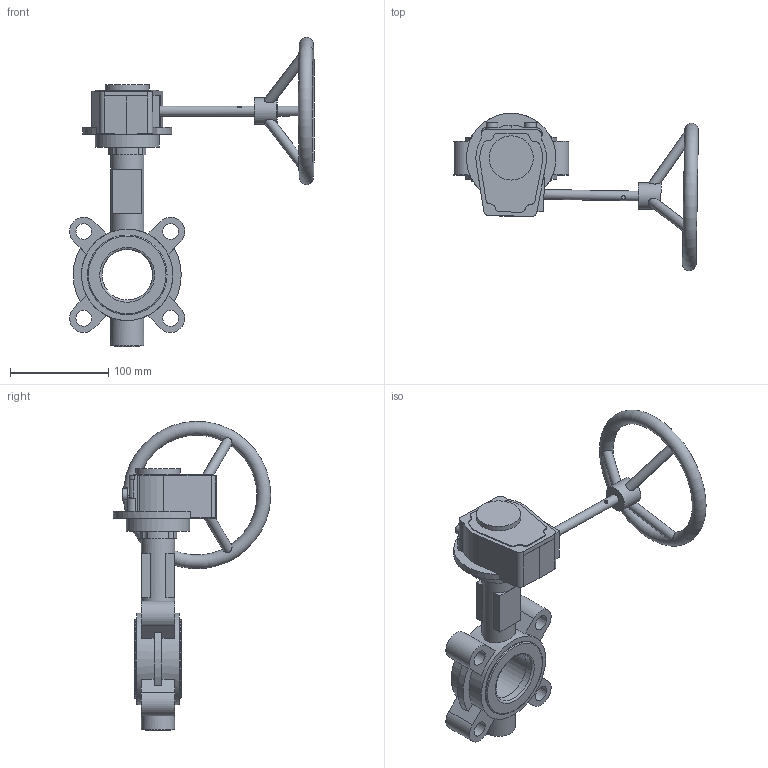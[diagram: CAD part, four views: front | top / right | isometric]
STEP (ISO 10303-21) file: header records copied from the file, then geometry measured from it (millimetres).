
FILE_DESCRIPTION (( 'STEP AP214' ), '1' );
FILE_NAME ('2502 LT型中线衬胶带销 手动头蝶阀 DN50 PN25 CD0309054.STEP', '2026-03-24T02:07:50', ( '' ), ( '' ), 'SwSTEP 2.0', 'SolidWorks 2018', '' );
FILE_SCHEMA (( 'AUTOMOTIVE_DESIGN' ));
Length unit declared in the file: millimetre
Products named in the file (5): 2026.3.6 GALA-D50-01LC25-00; DIN908 塞堵M20×1.5; GALA-D50-04AZC-00 概极傍蝶; 2502 LT型中线衬胶带销 手动头蝶阀 DN50 PN25 CD0309054; G12L忒雄芛 潠趙
Assembly tree (4 placements, depth 2):
  2502 LT型中线衬胶带销 手动头蝶阀 DN50 PN25 CD0309054
    2026.3.6 GALA-D50-01LC25-00
    GALA-D50-04AZC-00 概极傍蝶
    DIN908 塞堵M20×1.5
    G12L忒雄芛 潠趙
Bounding box: 249.13 x 160.17 x 314.58 mm (x, y, z)
Volume: 826418.7 mm3; surface area: 168585 mm2
Topology: 5 solids, 10 shells, 260 faces, 655 edges, 430 vertices
Faces by surface type: cylinder 122, plane 114, torus 9, cone 7, bspline 6, sphere 2
Full cylindrical faces by diameter (mm): 4 x1, 7 x4, 10 x5, 12 x2, 16 x4, 20 x1, 25 x1, 27 x2, 31.6 x1, 34 x3, 45 x1, 51.362 x1, 61 x2, 65 x1, 81 x4, 91 x1, 93 x1
Entity records: 10639 total; most frequent: CARTESIAN_POINT 2928, DIRECTION 1198, ORIENTED_EDGE 1182, EDGE_CURVE 591, AXIS2_PLACEMENT_3D 465, VERTEX_POINT 417, EDGE_LOOP 354, FACE_OUTER_BOUND 302
